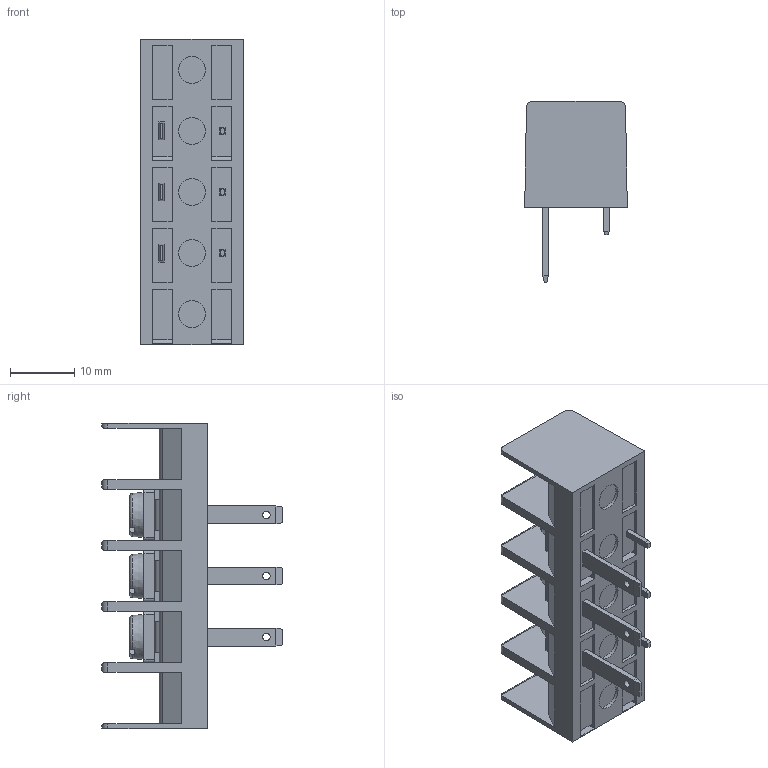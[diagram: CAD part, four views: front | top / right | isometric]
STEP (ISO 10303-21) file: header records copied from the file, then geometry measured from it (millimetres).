
FILE_DESCRIPTION (( 'STEP AP203' ), '1' );
FILE_NAME ('982-SMF-2.8-03.STEP', '2019-01-20T01:31:31', ( '' ), ( '' ), 'SwSTEP 2.0', 'SolidWorks 2016', '' );
FILE_SCHEMA (( 'CONFIG_CONTROL_DESIGN' ));
Length unit declared in the file: millimetre
Products named in the file (1): 982-SMF-2.8-03
Bounding box: 16 x 28.2 x 47.6 mm (x, y, z)
Volume: 6943.3 mm3; surface area: 5404.6 mm2
Topology: 1 solids, 4 shells, 421 faces, 1128 edges, 739 vertices
Faces by surface type: plane 302, cylinder 98, torus 15, cone 6
Entity records: 13375 total; most frequent: CARTESIAN_POINT 2545, ORIENTED_EDGE 2256, DIRECTION 2182, EDGE_CURVE 1128, VECTOR 830, LINE 830, VERTEX_POINT 739, AXIS2_PLACEMENT_3D 676
